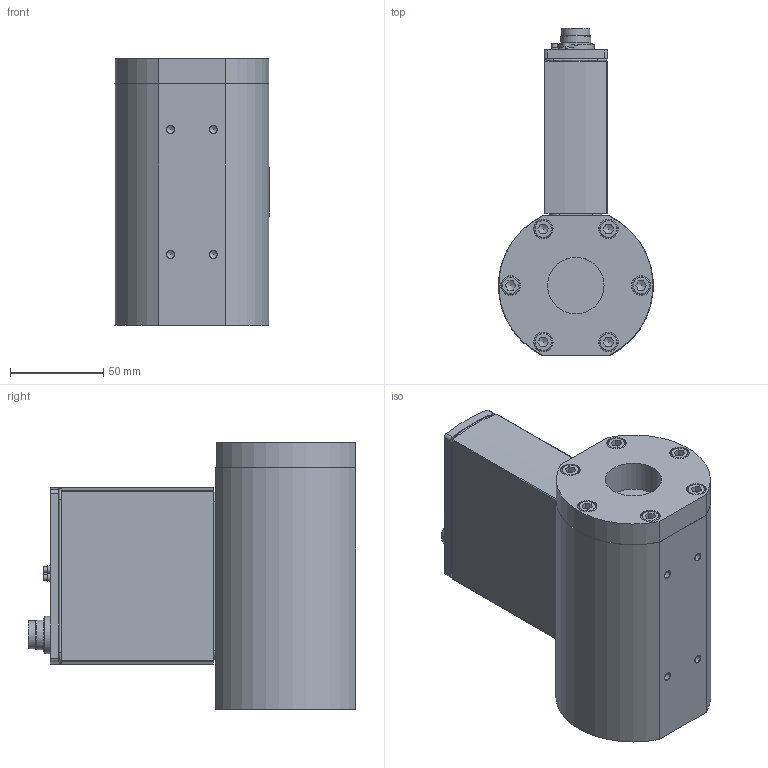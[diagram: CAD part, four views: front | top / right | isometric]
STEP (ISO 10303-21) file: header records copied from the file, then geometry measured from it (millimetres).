
FILE_DESCRIPTION(/* description */ (''),/* implementation_level */ '2;1');
FILE_NAME(/* name */ 'U:/AirCom-Produktdokumentation/Volumenstromregelung/PVM/Zeichnungen/CAD-Aircom/3D/B-PVM38.step',/* time_stamp */ '2020-12-16T09:21:08+01:00',/* author */ (''),/* organization */ (''),/* preprocessor_version */ 'ST-DEVELOPER v18.1',/* originating_system */ 'Autodesk Translation Framework v9.7.1.1290',/* authorisation */ '');
FILE_SCHEMA (('AUTOMOTIVE_DESIGN { 1 0 10303 214 3 1 1 }'));
Length unit declared in the file: millimetre
Products named in the file (1): D-6380
Bounding box: 82.84 x 175.7 x 143 mm (x, y, z)
Volume: 999667.2 mm3; surface area: 89703.1 mm2
Topology: 1 solids, 19 shells, 579 faces, 1410 edges, 918 vertices
Faces by surface type: plane 292, cylinder 177, cone 53, torus 25, bspline 24, sphere 8
Full cylindrical faces by diameter (mm): 1 x8, 2.013 x2, 2.459 x7, 2.693 x2, 2.88 x2, 3 x4, 3.4 x4, 3.6 x3, 3.75 x2, 4 x2, 4.134 x4, 4.459 x4, 5.4 x1, 5.5 x5, 6 x3, 6.5 x1, 6.7 x1, 8.3 x1, 10 x6, 10.5 x6, 14.5 x1, 15 x1, 16 x2, 18 x1, 18.1 x1, 20 x1, 30.292 x2
Entity records: 18037 total; most frequent: CARTESIAN_POINT 3894, DIRECTION 2931, ORIENTED_EDGE 2770, EDGE_CURVE 1385, AXIS2_PLACEMENT_3D 1107, VERTEX_POINT 918, LINE 717, VECTOR 717
